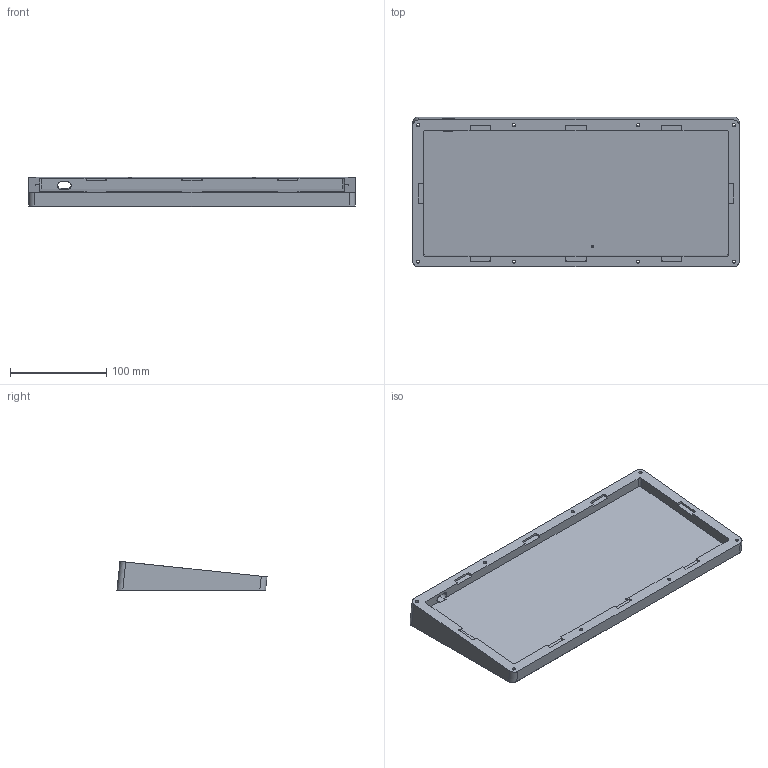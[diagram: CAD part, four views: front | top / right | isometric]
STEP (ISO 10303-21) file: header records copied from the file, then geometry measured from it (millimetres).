
FILE_DESCRIPTION(('Open CASCADE Model'),'2;1');
FILE_NAME('Open CASCADE Shape Model','2026-11-03T16:43:33',('Author'),( 'Open CASCADE'),'Open CASCADE STEP processor 7.9','Open CASCADE 7.9' ,'Unknown');
FILE_SCHEMA(('AUTOMOTIVE_DESIGN { 1 0 10303 214 1 1 1 1 }'));
Products named in the file (1): Open CASCADE STEP translator 7.9 2
Bounding box: 339.56 x 156.11 x 30.35 mm (x, y, z)
Volume: 685924.2 mm3; surface area: 140586.3 mm2
Topology: 1 solids, 1 shells, 756 faces, 2152 edges, 1429 vertices
Faces by surface type: plane 694, cylinder 49, bspline 13
Full cylindrical faces by diameter (mm): 2.2 x1, 3.4 x8, 6.5 x8, 10.5 x4
Entity records: 52584 total; most frequent: CARTESIAN_POINT 11854, DIRECTION 6677, LINE 4962, VECTOR 4962, ORIENTED_EDGE 4304, PCURVE 4304, DEFINITIONAL_REPRESENTATION 4304, EDGE_CURVE 2152
